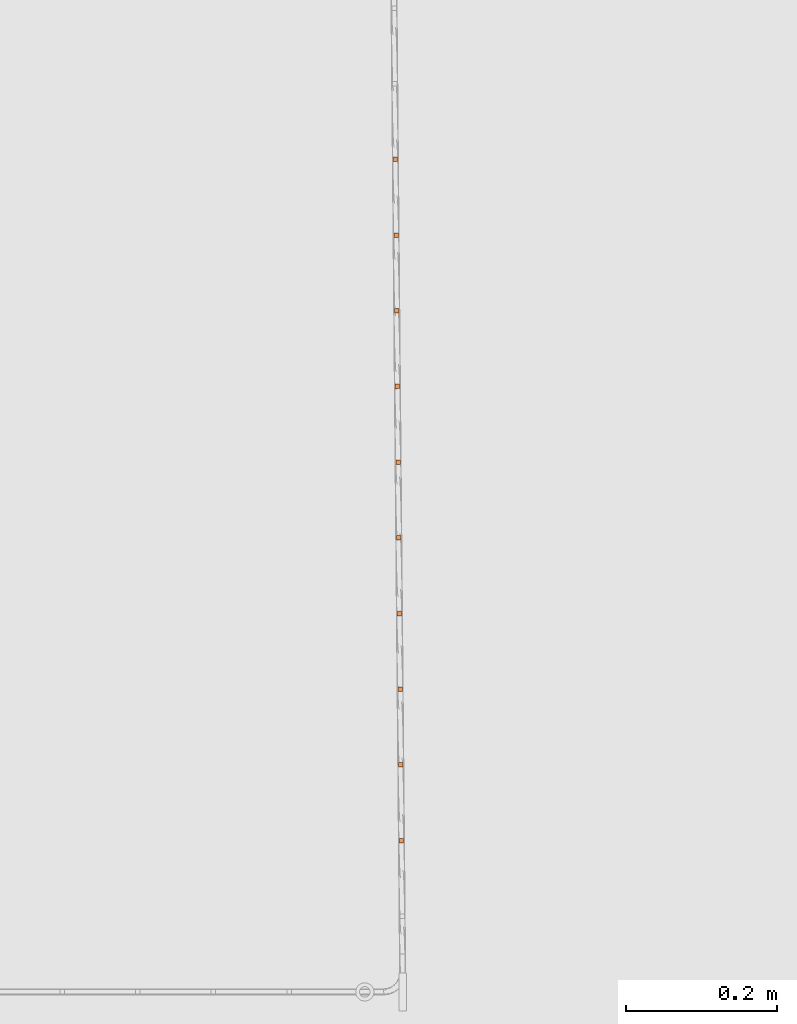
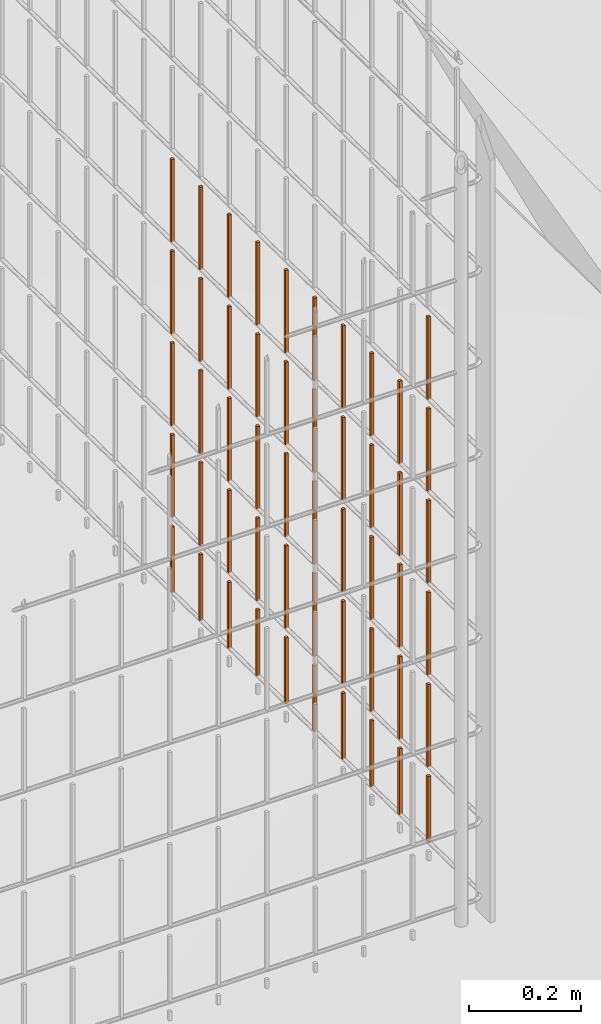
# One storey, part 256 of 1809: 51 proxies, 1 element without a shape of its own.
"""IFC2X3 building model written with IfcOpenShell, lengths in millimetres."""

from ifc_helpers import new_model, entity, si_unit, converted_unit, derived_unit, money_unit, direction, frame, origin_with_axes, place, context, subcontext, project, spatial, faceted_brep, source, transform, mapped, material, type_object, element, aggregate, save


model = new_model("IFC2X3")

# Units and contexts
model_context = context("Model", 3, precision=0.01, world=origin_with_axes(), true_north=direction((0.0, 1.0)))
body_context = subcontext(model_context, "Body", "Model", "MODEL_VIEW")
ifc_project = project(units=[si_unit("LENGTHUNIT", "METRE", prefix="MILLI"), si_unit("AREAUNIT", "SQUARE_METRE"), si_unit("VOLUMEUNIT", "CUBIC_METRE"), converted_unit("PLANEANGLEUNIT", "DEGREE", entity("IfcPlaneAngleMeasure", 0.0174532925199), si_unit("PLANEANGLEUNIT", "RADIAN"), dimensions=[0, 0, 0, 0, 0, 0, 0]), si_unit("SOLIDANGLEUNIT", "STERADIAN"), money_unit("EUR"), converted_unit("TIMEUNIT", "Year", entity("IfcTimeMeasure", 31556926.0), si_unit("TIMEUNIT", "SECOND"), dimensions=[0, 0, 1, 0, 0, 0, 0]), si_unit("MASSUNIT", "GRAM", prefix="KILO"), si_unit("THERMODYNAMICTEMPERATUREUNIT", "DEGREE_CELSIUS"), si_unit("LUMINOUSINTENSITYUNIT", "LUMEN"), si_unit("ENERGYUNIT", "JOULE", prefix="MEGA"), derived_unit("THERMALCONDUCTANCEUNIT", [(si_unit("POWERUNIT", "WATT"), 1), (si_unit("LENGTHUNIT", "METRE"), -1), (si_unit("THERMODYNAMICTEMPERATUREUNIT", "KELVIN"), -1)]), derived_unit("SPECIFICHEATCAPACITYUNIT", [(si_unit("ENERGYUNIT", "JOULE"), 1), (si_unit("MASSUNIT", "GRAM", prefix="KILO"), -1), (si_unit("THERMODYNAMICTEMPERATUREUNIT", "KELVIN"), -1)]), derived_unit("MASSDENSITYUNIT", [(si_unit("MASSUNIT", "GRAM", prefix="KILO"), 1), (si_unit("VOLUMEUNIT", "CUBIC_METRE"), -1)])], contexts=[model_context])

# Site, building, storey
site_placement = place(None, origin_with_axes())
site = spatial("IfcSite", under=ifc_project, at=site_placement, Name="Politse- ja Piirivalveameti ning Päästeameti ühishoone", CompositionType="ELEMENT")
building_placement = place(site_placement, origin_with_axes())
building = spatial("IfcBuilding", under=site, at=building_placement, Name="Politse- ja Piirivalveameti ning Päästeameti ühishoone", CompositionType="ELEMENT")
storey_placement = place(building_placement, origin_with_axes())
storey = spatial("IfcBuildingStorey", under=building, at=storey_placement, Name="Esimene korrus", CompositionType="ELEMENT", Elevation=0.0)

# Proxies
building_element_proxy_type_1 = type_object("IfcBuildingElementProxyType", Name="Railing Type", PredefinedType="NOTDEFINED")
proxy_1_placement = place(storey_placement, frame((-16775.8601056, 25156.7555964, 0.0), z_axis=(0.0, 0.0, 1.0), x_axis=(1.0, 0.0, 0.0)))
proxy_1 = element("IfcBuildingElementProxy", 1, at=proxy_1_placement, inside=storey, type_object=building_element_proxy_type_1, Name="KENNELI PIIRE")
ifc_material = material(Name="Teras - Konstruktsioon")
building_element_proxy_type_2 = type_object("IfcBuildingElementProxyType", Name="IfcBuildingElementProxy", PredefinedType="NOTDEFINED")
shared_shape_1 = source(origin_with_axes(), body_context, "Body", "Brep", [
    faceted_brep([(3.0, 3.0, 0.0), (-3.0, 3.0, 0.0), (-3.0, 3.0, 180.000012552), (3.0, 3.0, 180.000012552), (3.0, -3.0, 0.0), (-3.0, -3.0, 0.0), (-3.0, -3.0, 180.000012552), (3.0, -3.0, 180.000012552)], [[[0, 1, 2, 3]], [[0, 4, 5, 1]], [[1, 5, 6, 2]], [[3, 2, 6, 7]], [[4, 0, 3, 7]], [[5, 4, 7, 6]]]),
])
proxy_2_placement = place(proxy_1_placement, frame((166.154297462, -15868.8481914, 403.999987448), z_axis=(0.0, 0.0, 1.0), x_axis=(1.0, 0.0, 0.0)))
proxy_2 = element("IfcBuildingElementProxy", 2, at=proxy_2_placement, type_object=building_element_proxy_type_2, material=ifc_material, Name="BALUSTER - 001", context=body_context, shape_type="MappedRepresentation", body=[
    mapped(shared_shape_1, transform((0.0, 0.0, 0.0), x_axis=(0.999960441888, 0.00889464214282, 0.0), y_axis=(-0.00889464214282, 0.999960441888, 0.0), z_axis=(0.0, 0.0, 1.0))),
])
proxy_3_placement = place(proxy_1_placement, frame((165.264833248, -15768.8521472, 403.999987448), z_axis=(0.0, 0.0, 1.0), x_axis=(1.0, 0.0, 0.0)))
proxy_3 = element("IfcBuildingElementProxy", 3, at=proxy_3_placement, type_object=building_element_proxy_type_2, material=ifc_material, Name="BALUSTER - 001", context=body_context, shape_type="MappedRepresentation", body=[
    mapped(shared_shape_1, transform((0.0, 0.0, 0.0), x_axis=(0.999960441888, 0.00889464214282, 0.0), y_axis=(-0.00889464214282, 0.999960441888, 0.0), z_axis=(0.0, 0.0, 1.0))),
])
proxy_4_placement = place(proxy_1_placement, frame((164.375369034, -15668.856103, 403.999987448), z_axis=(0.0, 0.0, 1.0), x_axis=(1.0, 0.0, 0.0)))
proxy_4 = element("IfcBuildingElementProxy", 4, at=proxy_4_placement, type_object=building_element_proxy_type_2, material=ifc_material, Name="BALUSTER - 001", context=body_context, shape_type="MappedRepresentation", body=[
    mapped(shared_shape_1, transform((0.0, 0.0, 0.0), x_axis=(0.999960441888, 0.00889464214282, 0.0), y_axis=(-0.00889464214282, 0.999960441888, 0.0), z_axis=(0.0, 0.0, 1.0))),
])
proxy_5_placement = place(proxy_1_placement, frame((163.48590482, -15568.8600589, 403.999987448), z_axis=(0.0, 0.0, 1.0), x_axis=(1.0, 0.0, 0.0)))
proxy_5 = element("IfcBuildingElementProxy", 5, at=proxy_5_placement, type_object=building_element_proxy_type_2, material=ifc_material, Name="BALUSTER - 001", context=body_context, shape_type="MappedRepresentation", body=[
    mapped(shared_shape_1, transform((0.0, 0.0, 0.0), x_axis=(0.999960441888, 0.00889464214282, 0.0), y_axis=(-0.00889464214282, 0.999960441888, 0.0), z_axis=(0.0, 0.0, 1.0))),
])
proxy_6_placement = place(proxy_1_placement, frame((162.596440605, -15468.8640147, 403.999987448), z_axis=(0.0, 0.0, 1.0), x_axis=(1.0, 0.0, 0.0)))
proxy_6 = element("IfcBuildingElementProxy", 6, at=proxy_6_placement, type_object=building_element_proxy_type_2, material=ifc_material, Name="BALUSTER - 001", context=body_context, shape_type="MappedRepresentation", body=[
    mapped(shared_shape_1, transform((0.0, 0.0, 0.0), x_axis=(0.999960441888, 0.00889464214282, 0.0), y_axis=(-0.00889464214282, 0.999960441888, 0.0), z_axis=(0.0, 0.0, 1.0))),
])
proxy_7_placement = place(proxy_1_placement, frame((161.706976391, -15368.8679705, 403.999987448), z_axis=(0.0, 0.0, 1.0), x_axis=(1.0, 0.0, 0.0)))
proxy_7 = element("IfcBuildingElementProxy", 7, at=proxy_7_placement, type_object=building_element_proxy_type_2, material=ifc_material, Name="BALUSTER - 001", context=body_context, shape_type="MappedRepresentation", body=[
    mapped(shared_shape_1, transform((0.0, 0.0, 0.0), x_axis=(0.999960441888, 0.00889464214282, 0.0), y_axis=(-0.00889464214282, 0.999960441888, 0.0), z_axis=(0.0, 0.0, 1.0))),
])
proxy_8_placement = place(proxy_1_placement, frame((160.817512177, -15268.8719263, 403.999987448), z_axis=(0.0, 0.0, 1.0), x_axis=(1.0, 0.0, 0.0)))
proxy_8 = element("IfcBuildingElementProxy", 8, at=proxy_8_placement, type_object=building_element_proxy_type_2, material=ifc_material, Name="BALUSTER - 001", context=body_context, shape_type="MappedRepresentation", body=[
    mapped(shared_shape_1, transform((0.0, 0.0, 0.0), x_axis=(0.999960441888, 0.00889464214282, 0.0), y_axis=(-0.00889464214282, 0.999960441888, 0.0), z_axis=(0.0, 0.0, 1.0))),
])
proxy_9_placement = place(proxy_1_placement, frame((159.928047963, -15168.8758821, 403.999987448), z_axis=(0.0, 0.0, 1.0), x_axis=(1.0, 0.0, 0.0)))
proxy_9 = element("IfcBuildingElementProxy", 9, at=proxy_9_placement, type_object=building_element_proxy_type_2, material=ifc_material, Name="BALUSTER - 001", context=body_context, shape_type="MappedRepresentation", body=[
    mapped(shared_shape_1, transform((0.0, 0.0, 0.0), x_axis=(0.999960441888, 0.00889464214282, 0.0), y_axis=(-0.00889464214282, 0.999960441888, 0.0), z_axis=(0.0, 0.0, 1.0))),
])
proxy_10_placement = place(proxy_1_placement, frame((159.038583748, -15068.8798379, 403.999987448), z_axis=(0.0, 0.0, 1.0), x_axis=(1.0, 0.0, 0.0)))
proxy_10 = element("IfcBuildingElementProxy", 10, at=proxy_10_placement, type_object=building_element_proxy_type_2, material=ifc_material, Name="BALUSTER - 001", context=body_context, shape_type="MappedRepresentation", body=[
    mapped(shared_shape_1, transform((0.0, 0.0, 0.0), x_axis=(0.999960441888, 0.00889464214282, 0.0), y_axis=(-0.00889464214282, 0.999960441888, 0.0), z_axis=(0.0, 0.0, 1.0))),
])
proxy_11_placement = place(proxy_1_placement, frame((158.149119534, -14968.8837937, 403.999987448), z_axis=(0.0, 0.0, 1.0), x_axis=(1.0, 0.0, 0.0)))
proxy_11 = element("IfcBuildingElementProxy", 11, at=proxy_11_placement, type_object=building_element_proxy_type_2, material=ifc_material, Name="BALUSTER - 001", context=body_context, shape_type="MappedRepresentation", body=[
    mapped(shared_shape_1, transform((0.0, 0.0, 0.0), x_axis=(0.999960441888, 0.00889464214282, 0.0), y_axis=(-0.00889464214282, 0.999960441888, 0.0), z_axis=(0.0, 0.0, 1.0))),
])
proxy_12_placement = place(proxy_1_placement, frame((166.154297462, -15868.8481914, 803.999987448), z_axis=(0.0, 0.0, 1.0), x_axis=(1.0, 0.0, 0.0)))
proxy_12 = element("IfcBuildingElementProxy", 12, at=proxy_12_placement, type_object=building_element_proxy_type_2, material=ifc_material, Name="BALUSTER - 001", context=body_context, shape_type="MappedRepresentation", body=[
    mapped(shared_shape_1, transform((0.0, 0.0, 0.0), x_axis=(0.999960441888, 0.00889464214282, 0.0), y_axis=(-0.00889464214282, 0.999960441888, 0.0), z_axis=(0.0, 0.0, 1.0))),
])
proxy_13_placement = place(proxy_1_placement, frame((165.264833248, -15768.8521472, 803.999987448), z_axis=(0.0, 0.0, 1.0), x_axis=(1.0, 0.0, 0.0)))
proxy_13 = element("IfcBuildingElementProxy", 13, at=proxy_13_placement, type_object=building_element_proxy_type_2, material=ifc_material, Name="BALUSTER - 001", context=body_context, shape_type="MappedRepresentation", body=[
    mapped(shared_shape_1, transform((0.0, 0.0, 0.0), x_axis=(0.999960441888, 0.00889464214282, 0.0), y_axis=(-0.00889464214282, 0.999960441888, 0.0), z_axis=(0.0, 0.0, 1.0))),
])
proxy_14_placement = place(proxy_1_placement, frame((164.375369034, -15668.856103, 803.999987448), z_axis=(0.0, 0.0, 1.0), x_axis=(1.0, 0.0, 0.0)))
proxy_14 = element("IfcBuildingElementProxy", 14, at=proxy_14_placement, type_object=building_element_proxy_type_2, material=ifc_material, Name="BALUSTER - 001", context=body_context, shape_type="MappedRepresentation", body=[
    mapped(shared_shape_1, transform((0.0, 0.0, 0.0), x_axis=(0.999960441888, 0.00889464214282, 0.0), y_axis=(-0.00889464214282, 0.999960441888, 0.0), z_axis=(0.0, 0.0, 1.0))),
])
proxy_15_placement = place(proxy_1_placement, frame((163.48590482, -15568.8600589, 803.999987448), z_axis=(0.0, 0.0, 1.0), x_axis=(1.0, 0.0, 0.0)))
proxy_15 = element("IfcBuildingElementProxy", 15, at=proxy_15_placement, type_object=building_element_proxy_type_2, material=ifc_material, Name="BALUSTER - 001", context=body_context, shape_type="MappedRepresentation", body=[
    mapped(shared_shape_1, transform((0.0, 0.0, 0.0), x_axis=(0.999960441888, 0.00889464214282, 0.0), y_axis=(-0.00889464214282, 0.999960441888, 0.0), z_axis=(0.0, 0.0, 1.0))),
])
proxy_16_placement = place(proxy_1_placement, frame((162.596440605, -15468.8640147, 803.999987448), z_axis=(0.0, 0.0, 1.0), x_axis=(1.0, 0.0, 0.0)))
proxy_16 = element("IfcBuildingElementProxy", 16, at=proxy_16_placement, type_object=building_element_proxy_type_2, material=ifc_material, Name="BALUSTER - 001", context=body_context, shape_type="MappedRepresentation", body=[
    mapped(shared_shape_1, transform((0.0, 0.0, 0.0), x_axis=(0.999960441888, 0.00889464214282, 0.0), y_axis=(-0.00889464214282, 0.999960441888, 0.0), z_axis=(0.0, 0.0, 1.0))),
])
proxy_17_placement = place(proxy_1_placement, frame((161.706976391, -15368.8679705, 803.999987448), z_axis=(0.0, 0.0, 1.0), x_axis=(1.0, 0.0, 0.0)))
proxy_17 = element("IfcBuildingElementProxy", 17, at=proxy_17_placement, type_object=building_element_proxy_type_2, material=ifc_material, Name="BALUSTER - 001", context=body_context, shape_type="MappedRepresentation", body=[
    mapped(shared_shape_1, transform((0.0, 0.0, 0.0), x_axis=(0.999960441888, 0.00889464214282, 0.0), y_axis=(-0.00889464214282, 0.999960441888, 0.0), z_axis=(0.0, 0.0, 1.0))),
])
proxy_18_placement = place(proxy_1_placement, frame((160.817512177, -15268.8719263, 803.999987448), z_axis=(0.0, 0.0, 1.0), x_axis=(1.0, 0.0, 0.0)))
proxy_18 = element("IfcBuildingElementProxy", 18, at=proxy_18_placement, type_object=building_element_proxy_type_2, material=ifc_material, Name="BALUSTER - 001", context=body_context, shape_type="MappedRepresentation", body=[
    mapped(shared_shape_1, transform((0.0, 0.0, 0.0), x_axis=(0.999960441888, 0.00889464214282, 0.0), y_axis=(-0.00889464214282, 0.999960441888, 0.0), z_axis=(0.0, 0.0, 1.0))),
])
proxy_19_placement = place(proxy_1_placement, frame((159.928047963, -15168.8758821, 803.999987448), z_axis=(0.0, 0.0, 1.0), x_axis=(1.0, 0.0, 0.0)))
proxy_19 = element("IfcBuildingElementProxy", 19, at=proxy_19_placement, type_object=building_element_proxy_type_2, material=ifc_material, Name="BALUSTER - 001", context=body_context, shape_type="MappedRepresentation", body=[
    mapped(shared_shape_1, transform((0.0, 0.0, 0.0), x_axis=(0.999960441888, 0.00889464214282, 0.0), y_axis=(-0.00889464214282, 0.999960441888, 0.0), z_axis=(0.0, 0.0, 1.0))),
])
proxy_20_placement = place(proxy_1_placement, frame((159.038583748, -15068.8798379, 803.999987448), z_axis=(0.0, 0.0, 1.0), x_axis=(1.0, 0.0, 0.0)))
proxy_20 = element("IfcBuildingElementProxy", 20, at=proxy_20_placement, type_object=building_element_proxy_type_2, material=ifc_material, Name="BALUSTER - 001", context=body_context, shape_type="MappedRepresentation", body=[
    mapped(shared_shape_1, transform((0.0, 0.0, 0.0), x_axis=(0.999960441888, 0.00889464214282, 0.0), y_axis=(-0.00889464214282, 0.999960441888, 0.0), z_axis=(0.0, 0.0, 1.0))),
])
proxy_21_placement = place(proxy_1_placement, frame((158.149119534, -14968.8837937, 803.999987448), z_axis=(0.0, 0.0, 1.0), x_axis=(1.0, 0.0, 0.0)))
proxy_21 = element("IfcBuildingElementProxy", 21, at=proxy_21_placement, type_object=building_element_proxy_type_2, material=ifc_material, Name="BALUSTER - 001", context=body_context, shape_type="MappedRepresentation", body=[
    mapped(shared_shape_1, transform((0.0, 0.0, 0.0), x_axis=(0.999960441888, 0.00889464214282, 0.0), y_axis=(-0.00889464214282, 0.999960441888, 0.0), z_axis=(0.0, 0.0, 1.0))),
])
proxy_22_placement = place(proxy_1_placement, frame((166.154297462, -15868.8481914, 1003.99998745), z_axis=(0.0, 0.0, 1.0), x_axis=(1.0, 0.0, 0.0)))
proxy_22 = element("IfcBuildingElementProxy", 22, at=proxy_22_placement, type_object=building_element_proxy_type_2, material=ifc_material, Name="BALUSTER - 001", context=body_context, shape_type="MappedRepresentation", body=[
    mapped(shared_shape_1, transform((0.0, 0.0, 0.0), x_axis=(0.999960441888, 0.00889464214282, 0.0), y_axis=(-0.00889464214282, 0.999960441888, 0.0), z_axis=(0.0, 0.0, 1.0))),
])
shared_shape_2 = source(origin_with_axes(), body_context, "Body", "Brep", [
    faceted_brep([(3.0, 3.0, 0.0), (-3.0, 3.0, 0.0), (-3.0, 3.0, 144.000012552), (3.0, 3.0, 144.000012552), (3.0, -3.0, 0.0), (-3.0, -3.0, 0.0), (-3.0, -3.0, 144.000012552), (3.0, -3.0, 144.000012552)], [[[0, 1, 2, 3]], [[0, 4, 5, 1]], [[1, 5, 6, 2]], [[3, 2, 6, 7]], [[4, 0, 3, 7]], [[5, 4, 7, 6]]]),
])
proxy_23_placement = place(proxy_1_placement, frame((166.154297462, -15868.8481914, 39.9999874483), z_axis=(0.0, 0.0, 1.0), x_axis=(1.0, 0.0, 0.0)))
proxy_23 = element("IfcBuildingElementProxy", 23, at=proxy_23_placement, type_object=building_element_proxy_type_2, material=ifc_material, Name="BALUSTER - 001", context=body_context, shape_type="MappedRepresentation", body=[
    mapped(shared_shape_2, transform((0.0, 0.0, 0.0), x_axis=(0.999960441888, 0.00889464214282, 0.0), y_axis=(-0.00889464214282, 0.999960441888, 0.0), z_axis=(0.0, 0.0, 1.0))),
])
proxy_24_placement = place(proxy_1_placement, frame((165.264833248, -15768.8521472, 39.9999874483), z_axis=(0.0, 0.0, 1.0), x_axis=(1.0, 0.0, 0.0)))
proxy_24 = element("IfcBuildingElementProxy", 24, at=proxy_24_placement, type_object=building_element_proxy_type_2, material=ifc_material, Name="BALUSTER - 001", context=body_context, shape_type="MappedRepresentation", body=[
    mapped(shared_shape_2, transform((0.0, 0.0, 0.0), x_axis=(0.999960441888, 0.00889464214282, 0.0), y_axis=(-0.00889464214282, 0.999960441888, 0.0), z_axis=(0.0, 0.0, 1.0))),
])
proxy_25_placement = place(proxy_1_placement, frame((164.375369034, -15668.856103, 39.9999874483), z_axis=(0.0, 0.0, 1.0), x_axis=(1.0, 0.0, 0.0)))
proxy_25 = element("IfcBuildingElementProxy", 25, at=proxy_25_placement, type_object=building_element_proxy_type_2, material=ifc_material, Name="BALUSTER - 001", context=body_context, shape_type="MappedRepresentation", body=[
    mapped(shared_shape_2, transform((0.0, 0.0, 0.0), x_axis=(0.999960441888, 0.00889464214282, 0.0), y_axis=(-0.00889464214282, 0.999960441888, 0.0), z_axis=(0.0, 0.0, 1.0))),
])
proxy_26_placement = place(proxy_1_placement, frame((163.48590482, -15568.8600589, 39.9999874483), z_axis=(0.0, 0.0, 1.0), x_axis=(1.0, 0.0, 0.0)))
proxy_26 = element("IfcBuildingElementProxy", 26, at=proxy_26_placement, type_object=building_element_proxy_type_2, material=ifc_material, Name="BALUSTER - 001", context=body_context, shape_type="MappedRepresentation", body=[
    mapped(shared_shape_2, transform((0.0, 0.0, 0.0), x_axis=(0.999960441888, 0.00889464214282, 0.0), y_axis=(-0.00889464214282, 0.999960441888, 0.0), z_axis=(0.0, 0.0, 1.0))),
])
proxy_27_placement = place(proxy_1_placement, frame((162.596440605, -15468.8640147, 39.9999874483), z_axis=(0.0, 0.0, 1.0), x_axis=(1.0, 0.0, 0.0)))
proxy_27 = element("IfcBuildingElementProxy", 27, at=proxy_27_placement, type_object=building_element_proxy_type_2, material=ifc_material, Name="BALUSTER - 001", context=body_context, shape_type="MappedRepresentation", body=[
    mapped(shared_shape_2, transform((0.0, 0.0, 0.0), x_axis=(0.999960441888, 0.00889464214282, 0.0), y_axis=(-0.00889464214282, 0.999960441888, 0.0), z_axis=(0.0, 0.0, 1.0))),
])
proxy_28_placement = place(proxy_1_placement, frame((161.706976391, -15368.8679705, 39.9999874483), z_axis=(0.0, 0.0, 1.0), x_axis=(1.0, 0.0, 0.0)))
proxy_28 = element("IfcBuildingElementProxy", 28, at=proxy_28_placement, type_object=building_element_proxy_type_2, material=ifc_material, Name="BALUSTER - 001", context=body_context, shape_type="MappedRepresentation", body=[
    mapped(shared_shape_2, transform((0.0, 0.0, 0.0), x_axis=(0.999960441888, 0.00889464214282, 0.0), y_axis=(-0.00889464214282, 0.999960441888, 0.0), z_axis=(0.0, 0.0, 1.0))),
])
proxy_29_placement = place(proxy_1_placement, frame((160.817512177, -15268.8719263, 39.9999874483), z_axis=(0.0, 0.0, 1.0), x_axis=(1.0, 0.0, 0.0)))
proxy_29 = element("IfcBuildingElementProxy", 29, at=proxy_29_placement, type_object=building_element_proxy_type_2, material=ifc_material, Name="BALUSTER - 001", context=body_context, shape_type="MappedRepresentation", body=[
    mapped(shared_shape_2, transform((0.0, 0.0, 0.0), x_axis=(0.999960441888, 0.00889464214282, 0.0), y_axis=(-0.00889464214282, 0.999960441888, 0.0), z_axis=(0.0, 0.0, 1.0))),
])
proxy_30_placement = place(proxy_1_placement, frame((159.928047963, -15168.8758821, 39.9999874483), z_axis=(0.0, 0.0, 1.0), x_axis=(1.0, 0.0, 0.0)))
proxy_30 = element("IfcBuildingElementProxy", 30, at=proxy_30_placement, type_object=building_element_proxy_type_2, material=ifc_material, Name="BALUSTER - 001", context=body_context, shape_type="MappedRepresentation", body=[
    mapped(shared_shape_2, transform((0.0, 0.0, 0.0), x_axis=(0.999960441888, 0.00889464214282, 0.0), y_axis=(-0.00889464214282, 0.999960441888, 0.0), z_axis=(0.0, 0.0, 1.0))),
])
proxy_31_placement = place(proxy_1_placement, frame((159.038583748, -15068.8798379, 39.9999874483), z_axis=(0.0, 0.0, 1.0), x_axis=(1.0, 0.0, 0.0)))
proxy_31 = element("IfcBuildingElementProxy", 31, at=proxy_31_placement, type_object=building_element_proxy_type_2, material=ifc_material, Name="BALUSTER - 001", context=body_context, shape_type="MappedRepresentation", body=[
    mapped(shared_shape_2, transform((0.0, 0.0, 0.0), x_axis=(0.999960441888, 0.00889464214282, 0.0), y_axis=(-0.00889464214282, 0.999960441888, 0.0), z_axis=(0.0, 0.0, 1.0))),
])
proxy_32_placement = place(proxy_1_placement, frame((158.149119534, -14968.8837937, 39.9999874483), z_axis=(0.0, 0.0, 1.0), x_axis=(1.0, 0.0, 0.0)))
proxy_32 = element("IfcBuildingElementProxy", 32, at=proxy_32_placement, type_object=building_element_proxy_type_2, material=ifc_material, Name="BALUSTER - 001", context=body_context, shape_type="MappedRepresentation", body=[
    mapped(shared_shape_2, transform((0.0, 0.0, 0.0), x_axis=(0.999960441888, 0.00889464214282, 0.0), y_axis=(-0.00889464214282, 0.999960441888, 0.0), z_axis=(0.0, 0.0, 1.0))),
])
shared_shape_3 = source(origin_with_axes(), body_context, "Body", "Brep", [
    faceted_brep([(3.0, 3.0, 0.0), (-3.0, 3.0, 0.0), (-3.0, 3.0, 180.000012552), (3.0, 3.0, 180.000012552), (3.0, -3.0, 0.0), (-3.0, -3.0, 0.0), (-3.0, -3.0, 180.000012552), (3.0, -3.0, 180.000012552)], [[[0, 1, 2, 3]], [[0, 4, 5, 1]], [[1, 5, 6, 2]], [[3, 2, 6, 7]], [[4, 0, 3, 7]], [[5, 4, 7, 6]]]),
])
proxy_33_placement = place(proxy_1_placement, frame((159.928047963, -15168.8758821, 203.999987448), z_axis=(0.0, 0.0, 1.0), x_axis=(1.0, 0.0, 0.0)))
proxy_33 = element("IfcBuildingElementProxy", 33, at=proxy_33_placement, type_object=building_element_proxy_type_2, material=ifc_material, Name="BALUSTER - 001", context=body_context, shape_type="MappedRepresentation", body=[
    mapped(shared_shape_3, transform((0.0, 0.0, 0.0), x_axis=(0.999960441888, 0.00889464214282, 0.0), y_axis=(-0.00889464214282, 0.999960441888, 0.0), z_axis=(0.0, 0.0, 1.0))),
])
proxy_34_placement = place(proxy_1_placement, frame((158.149119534, -14968.8837937, 203.999987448), z_axis=(0.0, 0.0, 1.0), x_axis=(1.0, 0.0, 0.0)))
proxy_34 = element("IfcBuildingElementProxy", 34, at=proxy_34_placement, type_object=building_element_proxy_type_2, material=ifc_material, Name="BALUSTER - 001", context=body_context, shape_type="MappedRepresentation", body=[
    mapped(shared_shape_3, transform((0.0, 0.0, 0.0), x_axis=(0.999960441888, 0.00889464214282, 0.0), y_axis=(-0.00889464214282, 0.999960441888, 0.0), z_axis=(0.0, 0.0, 1.0))),
])
shared_shape_4 = source(origin_with_axes(), body_context, "Body", "Brep", [
    faceted_brep([(3.0, 3.0, 0.0), (-3.0, 3.0, 0.0), (-3.0, 3.0, 180.000012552), (3.0, 3.0, 180.000012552), (3.0, -3.0, 0.0), (-3.0, -3.0, 0.0), (-3.0, -3.0, 180.000012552), (3.0, -3.0, 180.000012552)], [[[0, 1, 2, 3]], [[0, 4, 5, 1]], [[1, 5, 6, 2]], [[3, 2, 6, 7]], [[4, 0, 3, 7]], [[5, 4, 7, 6]]]),
])
proxy_35_placement = place(proxy_1_placement, frame((166.154297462, -15868.8481914, 203.999987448), z_axis=(0.0, 0.0, 1.0), x_axis=(1.0, 0.0, 0.0)))
proxy_35 = element("IfcBuildingElementProxy", 35, at=proxy_35_placement, type_object=building_element_proxy_type_2, material=ifc_material, Name="BALUSTER - 001", context=body_context, shape_type="MappedRepresentation", body=[
    mapped(shared_shape_4, transform((0.0, 0.0, 0.0), x_axis=(0.999960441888, 0.00889464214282, 0.0), y_axis=(-0.00889464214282, 0.999960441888, 0.0), z_axis=(0.0, 0.0, 1.0))),
])
proxy_36_placement = place(proxy_1_placement, frame((165.264833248, -15768.8521472, 203.999987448), z_axis=(0.0, 0.0, 1.0), x_axis=(1.0, 0.0, 0.0)))
proxy_36 = element("IfcBuildingElementProxy", 36, at=proxy_36_placement, type_object=building_element_proxy_type_2, material=ifc_material, Name="BALUSTER - 001", context=body_context, shape_type="MappedRepresentation", body=[
    mapped(shared_shape_4, transform((0.0, 0.0, 0.0), x_axis=(0.999960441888, 0.00889464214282, 0.0), y_axis=(-0.00889464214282, 0.999960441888, 0.0), z_axis=(0.0, 0.0, 1.0))),
])
proxy_37_placement = place(proxy_1_placement, frame((164.375369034, -15668.856103, 203.999987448), z_axis=(0.0, 0.0, 1.0), x_axis=(1.0, 0.0, 0.0)))
proxy_37 = element("IfcBuildingElementProxy", 37, at=proxy_37_placement, type_object=building_element_proxy_type_2, material=ifc_material, Name="BALUSTER - 001", context=body_context, shape_type="MappedRepresentation", body=[
    mapped(shared_shape_4, transform((0.0, 0.0, 0.0), x_axis=(0.999960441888, 0.00889464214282, 0.0), y_axis=(-0.00889464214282, 0.999960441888, 0.0), z_axis=(0.0, 0.0, 1.0))),
])
proxy_38_placement = place(proxy_1_placement, frame((163.48590482, -15568.8600589, 203.999987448), z_axis=(0.0, 0.0, 1.0), x_axis=(1.0, 0.0, 0.0)))
proxy_38 = element("IfcBuildingElementProxy", 38, at=proxy_38_placement, type_object=building_element_proxy_type_2, material=ifc_material, Name="BALUSTER - 001", context=body_context, shape_type="MappedRepresentation", body=[
    mapped(shared_shape_4, transform((0.0, 0.0, 0.0), x_axis=(0.999960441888, 0.00889464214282, 0.0), y_axis=(-0.00889464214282, 0.999960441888, 0.0), z_axis=(0.0, 0.0, 1.0))),
])
proxy_39_placement = place(proxy_1_placement, frame((162.596440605, -15468.8640147, 203.999987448), z_axis=(0.0, 0.0, 1.0), x_axis=(1.0, 0.0, 0.0)))
proxy_39 = element("IfcBuildingElementProxy", 39, at=proxy_39_placement, type_object=building_element_proxy_type_2, material=ifc_material, Name="BALUSTER - 001", context=body_context, shape_type="MappedRepresentation", body=[
    mapped(shared_shape_4, transform((0.0, 0.0, 0.0), x_axis=(0.999960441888, 0.00889464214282, 0.0), y_axis=(-0.00889464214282, 0.999960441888, 0.0), z_axis=(0.0, 0.0, 1.0))),
])
proxy_40_placement = place(proxy_1_placement, frame((161.706976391, -15368.8679705, 203.999987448), z_axis=(0.0, 0.0, 1.0), x_axis=(1.0, 0.0, 0.0)))
proxy_40 = element("IfcBuildingElementProxy", 40, at=proxy_40_placement, type_object=building_element_proxy_type_2, material=ifc_material, Name="BALUSTER - 001", context=body_context, shape_type="MappedRepresentation", body=[
    mapped(shared_shape_4, transform((0.0, 0.0, 0.0), x_axis=(0.999960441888, 0.00889464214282, 0.0), y_axis=(-0.00889464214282, 0.999960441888, 0.0), z_axis=(0.0, 0.0, 1.0))),
])
proxy_41_placement = place(proxy_1_placement, frame((160.817512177, -15268.8719263, 203.999987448), z_axis=(0.0, 0.0, 1.0), x_axis=(1.0, 0.0, 0.0)))
proxy_41 = element("IfcBuildingElementProxy", 41, at=proxy_41_placement, type_object=building_element_proxy_type_2, material=ifc_material, Name="BALUSTER - 001", context=body_context, shape_type="MappedRepresentation", body=[
    mapped(shared_shape_4, transform((0.0, 0.0, 0.0), x_axis=(0.999960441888, 0.00889464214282, 0.0), y_axis=(-0.00889464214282, 0.999960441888, 0.0), z_axis=(0.0, 0.0, 1.0))),
])
proxy_42_placement = place(proxy_1_placement, frame((159.038583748, -15068.8798379, 203.999987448), z_axis=(0.0, 0.0, 1.0), x_axis=(1.0, 0.0, 0.0)))
proxy_42 = element("IfcBuildingElementProxy", 42, at=proxy_42_placement, type_object=building_element_proxy_type_2, material=ifc_material, Name="BALUSTER - 001", context=body_context, shape_type="MappedRepresentation", body=[
    mapped(shared_shape_4, transform((0.0, 0.0, 0.0), x_axis=(0.999960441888, 0.00889464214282, 0.0), y_axis=(-0.00889464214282, 0.999960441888, 0.0), z_axis=(0.0, 0.0, 1.0))),
])
shared_shape_5 = source(origin_with_axes(), body_context, "Body", "Brep", [
    faceted_brep([(3.0, 3.0, 0.0), (-3.0, 3.0, 0.0), (-3.0, 3.0, 180.000012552), (3.0, 3.0, 180.000012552), (3.0, -3.0, 0.0), (-3.0, -3.0, 0.0), (-3.0, -3.0, 180.000012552), (3.0, -3.0, 180.000012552)], [[[0, 1, 2, 3]], [[0, 4, 5, 1]], [[1, 5, 6, 2]], [[3, 2, 6, 7]], [[4, 0, 3, 7]], [[5, 4, 7, 6]]]),
])
proxy_43_placement = place(proxy_1_placement, frame((165.264833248, -15768.8521472, 603.999987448), z_axis=(0.0, 0.0, 1.0), x_axis=(1.0, 0.0, 0.0)))
proxy_43 = element("IfcBuildingElementProxy", 43, at=proxy_43_placement, type_object=building_element_proxy_type_2, material=ifc_material, Name="BALUSTER - 001", context=body_context, shape_type="MappedRepresentation", body=[
    mapped(shared_shape_5, transform((0.0, 0.0, 0.0), x_axis=(0.999960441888, 0.00889464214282, 0.0), y_axis=(-0.00889464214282, 0.999960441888, 0.0), z_axis=(0.0, 0.0, 1.0))),
])
proxy_44_placement = place(proxy_1_placement, frame((164.375369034, -15668.856103, 603.999987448), z_axis=(0.0, 0.0, 1.0), x_axis=(1.0, 0.0, 0.0)))
proxy_44 = element("IfcBuildingElementProxy", 44, at=proxy_44_placement, type_object=building_element_proxy_type_2, material=ifc_material, Name="BALUSTER - 001", context=body_context, shape_type="MappedRepresentation", body=[
    mapped(shared_shape_5, transform((0.0, 0.0, 0.0), x_axis=(0.999960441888, 0.00889464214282, 0.0), y_axis=(-0.00889464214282, 0.999960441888, 0.0), z_axis=(0.0, 0.0, 1.0))),
])
proxy_45_placement = place(proxy_1_placement, frame((163.48590482, -15568.8600589, 603.999987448), z_axis=(0.0, 0.0, 1.0), x_axis=(1.0, 0.0, 0.0)))
proxy_45 = element("IfcBuildingElementProxy", 45, at=proxy_45_placement, type_object=building_element_proxy_type_2, material=ifc_material, Name="BALUSTER - 001", context=body_context, shape_type="MappedRepresentation", body=[
    mapped(shared_shape_5, transform((0.0, 0.0, 0.0), x_axis=(0.999960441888, 0.00889464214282, 0.0), y_axis=(-0.00889464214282, 0.999960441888, 0.0), z_axis=(0.0, 0.0, 1.0))),
])
proxy_46_placement = place(proxy_1_placement, frame((162.596440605, -15468.8640147, 603.999987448), z_axis=(0.0, 0.0, 1.0), x_axis=(1.0, 0.0, 0.0)))
proxy_46 = element("IfcBuildingElementProxy", 46, at=proxy_46_placement, type_object=building_element_proxy_type_2, material=ifc_material, Name="BALUSTER - 001", context=body_context, shape_type="MappedRepresentation", body=[
    mapped(shared_shape_5, transform((0.0, 0.0, 0.0), x_axis=(0.999960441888, 0.00889464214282, 0.0), y_axis=(-0.00889464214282, 0.999960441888, 0.0), z_axis=(0.0, 0.0, 1.0))),
])
proxy_47_placement = place(proxy_1_placement, frame((161.706976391, -15368.8679705, 603.999987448), z_axis=(0.0, 0.0, 1.0), x_axis=(1.0, 0.0, 0.0)))
proxy_47 = element("IfcBuildingElementProxy", 47, at=proxy_47_placement, type_object=building_element_proxy_type_2, material=ifc_material, Name="BALUSTER - 001", context=body_context, shape_type="MappedRepresentation", body=[
    mapped(shared_shape_5, transform((0.0, 0.0, 0.0), x_axis=(0.999960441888, 0.00889464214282, 0.0), y_axis=(-0.00889464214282, 0.999960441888, 0.0), z_axis=(0.0, 0.0, 1.0))),
])
proxy_48_placement = place(proxy_1_placement, frame((160.817512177, -15268.8719263, 603.999987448), z_axis=(0.0, 0.0, 1.0), x_axis=(1.0, 0.0, 0.0)))
proxy_48 = element("IfcBuildingElementProxy", 48, at=proxy_48_placement, type_object=building_element_proxy_type_2, material=ifc_material, Name="BALUSTER - 001", context=body_context, shape_type="MappedRepresentation", body=[
    mapped(shared_shape_5, transform((0.0, 0.0, 0.0), x_axis=(0.999960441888, 0.00889464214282, 0.0), y_axis=(-0.00889464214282, 0.999960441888, 0.0), z_axis=(0.0, 0.0, 1.0))),
])
shared_shape_6 = source(origin_with_axes(), body_context, "Body", "Brep", [
    faceted_brep([(3.0, 3.0, 0.0), (-3.0, 3.0, 0.0), (-3.0, 3.0, 180.000012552), (3.0, 3.0, 180.000012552), (3.0, -3.0, 0.0), (-3.0, -3.0, 0.0), (-3.0, -3.0, 180.000012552), (3.0, -3.0, 180.000012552)], [[[0, 1, 2, 3]], [[0, 4, 5, 1]], [[1, 5, 6, 2]], [[3, 2, 6, 7]], [[4, 0, 3, 7]], [[5, 4, 7, 6]]]),
])
proxy_49_placement = place(proxy_1_placement, frame((159.928047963, -15168.8758821, 603.999987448), z_axis=(0.0, 0.0, 1.0), x_axis=(1.0, 0.0, 0.0)))
proxy_49 = element("IfcBuildingElementProxy", 49, at=proxy_49_placement, type_object=building_element_proxy_type_2, material=ifc_material, Name="BALUSTER - 001", context=body_context, shape_type="MappedRepresentation", body=[
    mapped(shared_shape_6, transform((0.0, 0.0, 0.0), x_axis=(0.999960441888, 0.00889464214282, 0.0), y_axis=(-0.00889464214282, 0.999960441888, 0.0), z_axis=(0.0, 0.0, 1.0))),
])
proxy_50_placement = place(proxy_1_placement, frame((158.149119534, -14968.8837937, 603.999987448), z_axis=(0.0, 0.0, 1.0), x_axis=(1.0, 0.0, 0.0)))
proxy_50 = element("IfcBuildingElementProxy", 50, at=proxy_50_placement, type_object=building_element_proxy_type_2, material=ifc_material, Name="BALUSTER - 001", context=body_context, shape_type="MappedRepresentation", body=[
    mapped(shared_shape_6, transform((0.0, 0.0, 0.0), x_axis=(0.999960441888, 0.00889464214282, 0.0), y_axis=(-0.00889464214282, 0.999960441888, 0.0), z_axis=(0.0, 0.0, 1.0))),
])
shared_shape_7 = source(origin_with_axes(), body_context, "Body", "Brep", [
    faceted_brep([(3.0, 3.0, 0.0), (-3.0, 3.0, 0.0), (-3.0, 3.0, 180.000012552), (3.0, 3.0, 180.000012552), (3.0, -3.0, 0.0), (-3.0, -3.0, 0.0), (-3.0, -3.0, 180.000012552), (3.0, -3.0, 180.000012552)], [[[0, 1, 2, 3]], [[0, 4, 5, 1]], [[1, 5, 6, 2]], [[3, 2, 6, 7]], [[4, 0, 3, 7]], [[5, 4, 7, 6]]]),
])
proxy_51_placement = place(proxy_1_placement, frame((166.154297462, -15868.8481914, 603.999987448), z_axis=(0.0, 0.0, 1.0), x_axis=(1.0, 0.0, 0.0)))
proxy_51 = element("IfcBuildingElementProxy", 51, at=proxy_51_placement, type_object=building_element_proxy_type_2, material=ifc_material, Name="BALUSTER - 001", context=body_context, shape_type="MappedRepresentation", body=[
    mapped(shared_shape_7, transform((0.0, 0.0, 0.0), x_axis=(0.999960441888, 0.00889464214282, 0.0), y_axis=(-0.00889464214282, 0.999960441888, 0.0), z_axis=(0.0, 0.0, 1.0))),
])
proxy_52_placement = place(proxy_1_placement, frame((159.038583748, -15068.8798379, 603.999987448), z_axis=(0.0, 0.0, 1.0), x_axis=(1.0, 0.0, 0.0)))
proxy_52 = element("IfcBuildingElementProxy", 52, at=proxy_52_placement, type_object=building_element_proxy_type_2, material=ifc_material, Name="BALUSTER - 001", context=body_context, shape_type="MappedRepresentation", body=[
    mapped(shared_shape_7, transform((0.0, 0.0, 0.0), x_axis=(0.999960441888, 0.00889464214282, 0.0), y_axis=(-0.00889464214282, 0.999960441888, 0.0), z_axis=(0.0, 0.0, 1.0))),
])
aggregate(proxy_1, [proxy_23, proxy_24, proxy_25, proxy_26, proxy_27, proxy_28, proxy_29, proxy_30, proxy_31, proxy_32, proxy_35, proxy_36, proxy_37, proxy_38, proxy_39, proxy_40, proxy_41, proxy_33, proxy_42, proxy_34, proxy_2, proxy_3, proxy_4, proxy_5, proxy_6, proxy_7, proxy_8, proxy_9, proxy_10, proxy_11, proxy_51, proxy_43, proxy_44, proxy_45, proxy_46, proxy_47, proxy_48, proxy_49, proxy_52, proxy_50, proxy_12, proxy_13, proxy_14, proxy_15, proxy_16, proxy_17, proxy_18, proxy_19, proxy_20, proxy_21, proxy_22])

save(model, "model.ifc")
